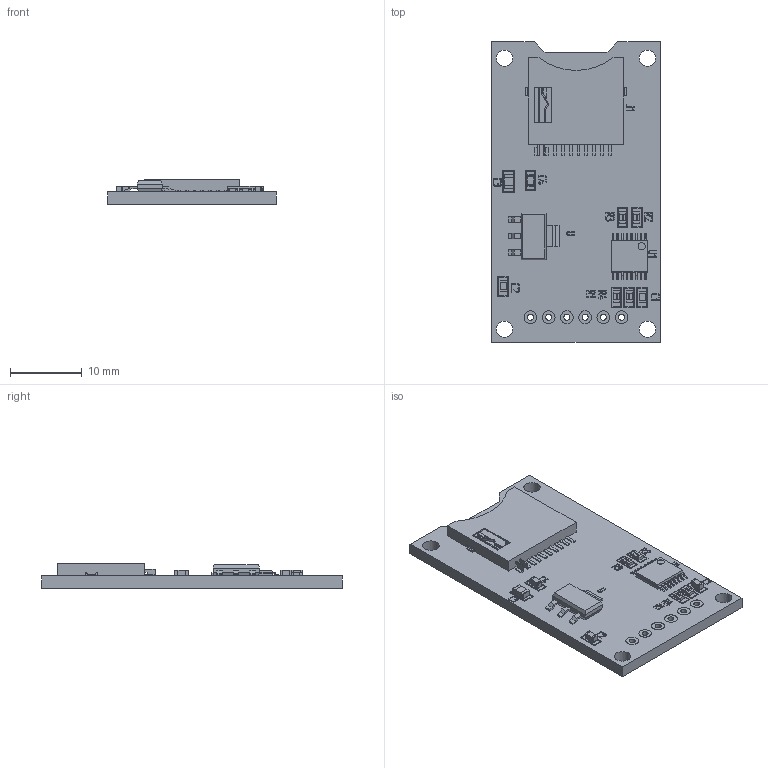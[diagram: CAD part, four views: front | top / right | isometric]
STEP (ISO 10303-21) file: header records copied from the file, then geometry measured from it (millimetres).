
FILE_DESCRIPTION(/* description */ ('Unknown'),/* implementation_level */ '2;1');
FILE_NAME(/* name */ 'MicroSD Card Module - 2',/* time_stamp */ '2020-09-14T23:58:51-04:00',/* author */ ('Unknown'),/* organization */ ('Unknown'),/* preprocessor_version */ 'ST-DEVELOPER v16.7',/* originating_system */ 'Solid Edge',/* authorisation */ 'Unknown');
FILE_SCHEMA (('AUTOMOTIVE_DESIGN {1 0 10303 214 3 1 1}'));
Products named in the file (8): MicroSD Card Module - 2; SD Card Module - 2; MicroSD; TSSOP-16; 0603 Capacitor; 0603 Resistor; SOT223-3; 0805_Capacitor
Assembly tree (12 placements, depth 2):
  MicroSD Card Module - 2
    SD Card Module - 2
    MicroSD
    TSSOP-16
    0603 Capacitor  x3
    0603 Resistor  x4
    SOT223-3
    0805_Capacitor
Bounding box: 23.55 x 41.94 x 3.4 mm (x, y, z)
Volume: 1856.4 mm3; surface area: 3049.4 mm2
Topology: 16 solids, 36 shells, 2120 faces, 5160 edges, 3323 vertices
Faces by surface type: plane 1398, cylinder 337, bspline 255, torus 130
Full cylindrical faces by diameter (mm): 0.838 x6, 1 x1, 1.45 x2, 1.778 x12, 2.286 x4
Entity records: 79674 total; most frequent: CARTESIAN_POINT 23453, ORIENTED_EDGE 9508, DIRECTION 7320, EDGE_CURVE 4754, VERTEX_POINT 3092, AXIS2_PLACEMENT_3D 2489, LINE 2342, VECTOR 2342
